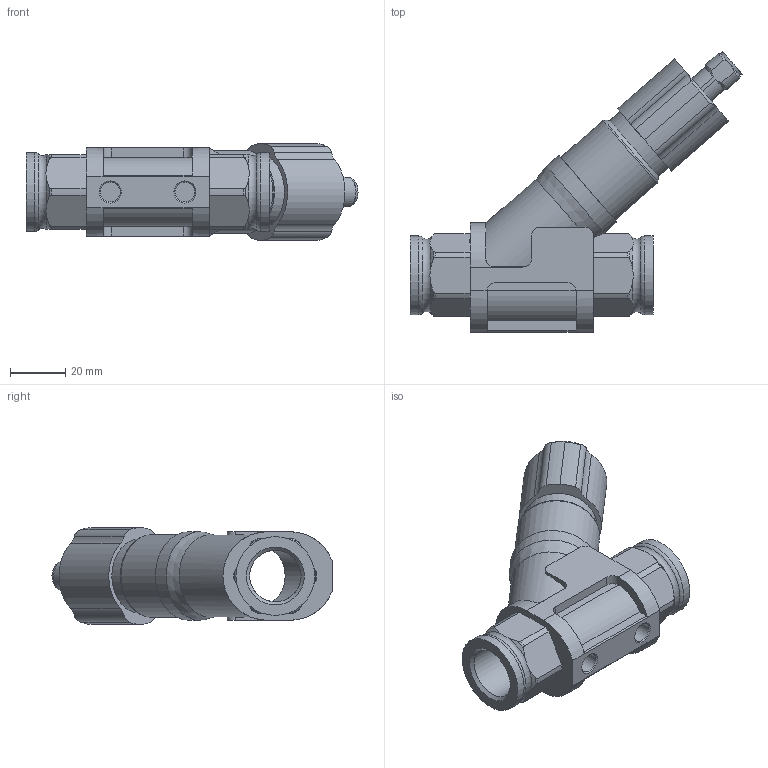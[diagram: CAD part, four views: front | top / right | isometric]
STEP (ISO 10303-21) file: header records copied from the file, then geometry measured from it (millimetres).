
FILE_DESCRIPTION( ( 'STEP AP203' ), '1' );
FILE_NAME( 'p:/temp/worker_41/temp/exporttempdir_3700_736_JDMWf/format_1/SBG332.stp', '2021-10-15T08:15:33', ( 'License CC BY-ND 4.0' ), ( 'CADENAS' ), ' ', 'PARTsolutions', ' ' );
FILE_SCHEMA( ( 'CONFIG_CONTROL_DESIGN' ) );
Length unit declared in the file: millimetre
Products named in the file (1): _SBG332
Bounding box: 120.13 x 101.32 x 35 mm (x, y, z)
Volume: 83369.4 mm3; surface area: 29851.4 mm2
Topology: 1 solids, 1 shells, 169 faces, 459 edges, 302 vertices
Faces by surface type: cylinder 69, plane 58, cone 22, torus 20
Full cylindrical faces by diameter (mm): 7.188 x2, 10 x1, 10.6 x1, 10.7 x1, 18 x1, 18.631 x2, 20 x1, 23.812 x1, 26.8 x1, 28.5 x2, 30 x1, 32 x1
Entity records: 5887 total; most frequent: CARTESIAN_POINT 1759, ORIENTED_EDGE 848, DIRECTION 845, EDGE_CURVE 424, AXIS2_PLACEMENT_3D 351, VERTEX_POINT 293, EDGE_LOOP 207, FACE_OUTER_BOUND 189
